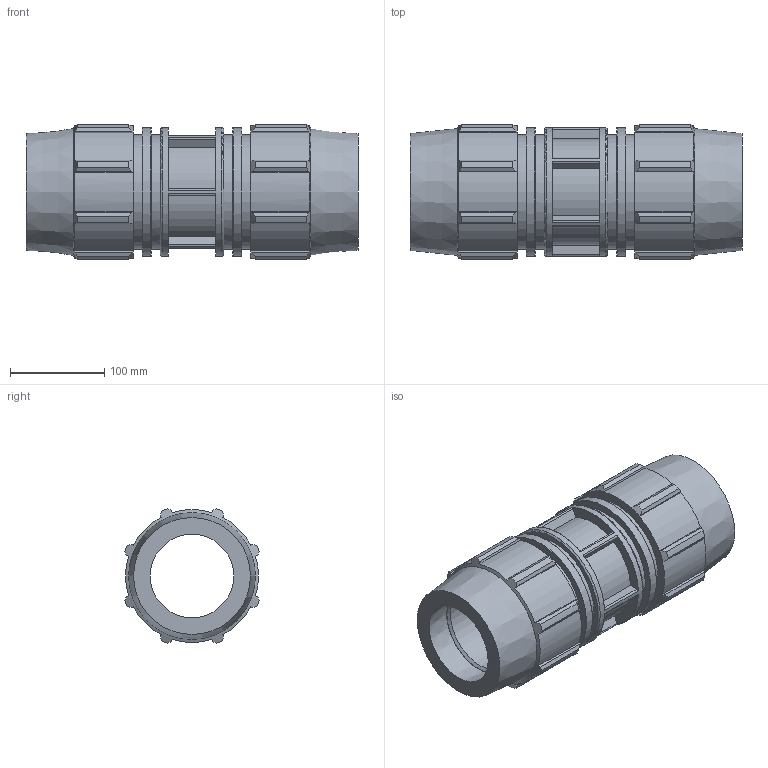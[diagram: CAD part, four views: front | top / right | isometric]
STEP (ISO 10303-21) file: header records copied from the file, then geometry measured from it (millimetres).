
FILE_DESCRIPTION(/* description */ ('PLASSON REPAIR COUPLER 3'''' - 3'''''),/* implementation_level */ '2;1');
FILE_NAME(/* name */ 'C:\Dropbox\KIMPROJECTS-Inventor 2019\99-16-3568-Processing Inch\ASTM Compression 2021\0761M\0761M0030.ipt.stp',/* time_stamp */ '2021-08-26T12:34:47+03:00',/* author */ ('KIM'),/* organization */ (''),/* preprocessor_version */ 'ST-DEVELOPER v17.2',/* originating_system */ 'Autodesk Inventor 2019',/* authorisation */ '');
FILE_SCHEMA (('AUTOMOTIVE_DESIGN { 1 0 10303 214 3 1 1 }'));
Length unit declared in the file: inch
Products named in the file (1): 0761M0030
Bounding box: 352.81 x 142.92 x 142.92 mm (x, y, z)
Volume: 2677438.1 mm3; surface area: 308204.6 mm2
Topology: 1 solids, 1 shells, 200 faces, 572 edges, 390 vertices
Faces by surface type: plane 100, cylinder 58, cone 24, torus 18
Full cylindrical faces by diameter (mm): 88.7 x1, 121.514 x4, 136.703 x3
Entity records: 6743 total; most frequent: CARTESIAN_POINT 1459, ORIENTED_EDGE 1144, DIRECTION 1102, EDGE_CURVE 572, AXIS2_PLACEMENT_3D 417, VERTEX_POINT 390, LINE 268, VECTOR 268
